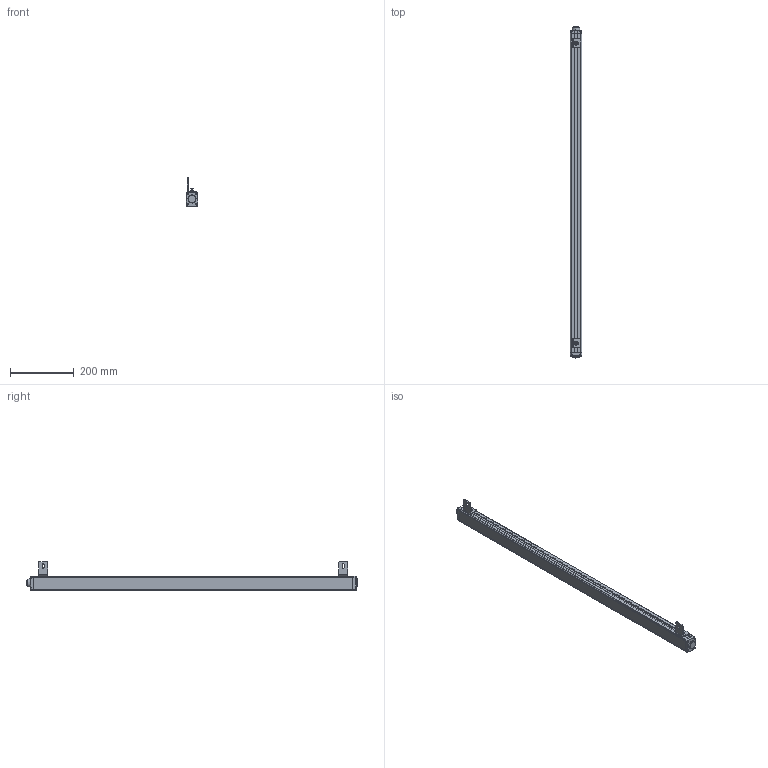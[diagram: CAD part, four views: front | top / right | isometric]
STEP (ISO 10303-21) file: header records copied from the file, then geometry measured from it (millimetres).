
FILE_DESCRIPTION((''),'2;1');
FILE_NAME('ESCL-00_ASM','2021-07-17T12:20:01',('18720616900'),(''),'CREO PARAMETRIC BY PTC INC, 2019010','CREO PARAMETRIC BY PTC INC, 2019010','');
FILE_SCHEMA(('CONFIG_CONTROL_DESIGN'));
Products named in the file (12): ESCL-00; ESCL-3-SOLID1000; ESCL-4-SOLID1000; HKCT1_-4-SOLID1; L10001; M6-8--0001; M6-1--00; M6-1-00; 00; M6-80001_ASM; L1--0001_ASM; ESCL-00_ASM
Assembly tree (12 placements, depth 4):
  ESCL-00_ASM
    ESCL-00
    ESCL-3-SOLID1000
    ESCL-4-SOLID1000
    HKCT1_-4-SOLID1
    L1--0001_ASM  x2
      L10001
      M6-80001_ASM
        M6-8--0001
        M6-1--00
        M6-1-00
        00
Bounding box: 36.1 x 1045.1 x 91.11 mm (x, y, z)
Volume: 1491892.8 mm3; surface area: 225346 mm2
Topology: 14 solids, 14 shells, 625 faces, 1645 edges, 1070 vertices
Faces by surface type: plane 226, cylinder 208, cone 78, bspline 66, torus 47
Entity records: 76177 total; most frequent: CARTESIAN_POINT 63991, ORIENTED_EDGE 2664, DIRECTION 2275, EDGE_CURVE 1332, VERTEX_POINT 872, AXIS2_PLACEMENT_3D 816, VECTOR 643, LINE 643
